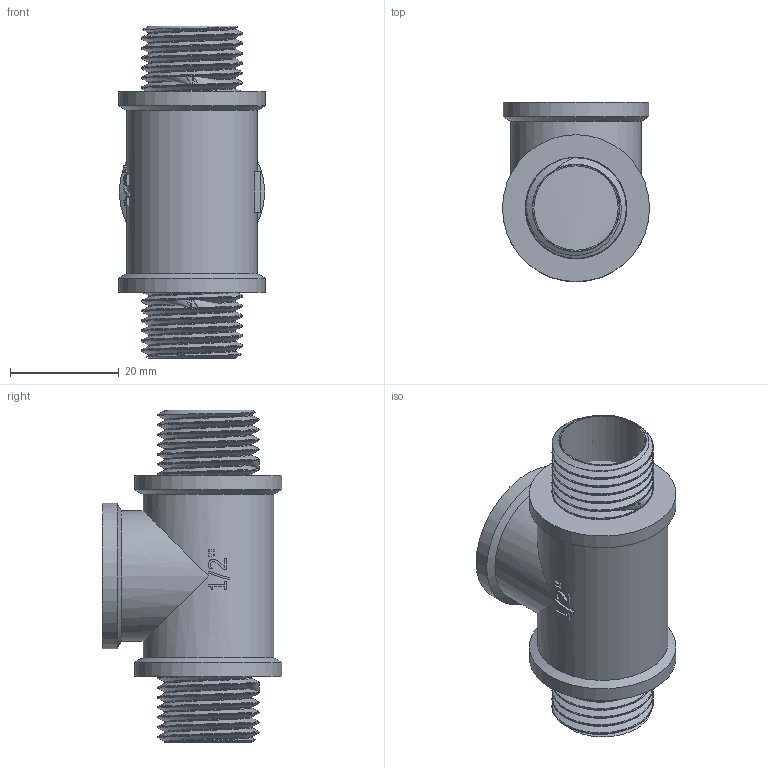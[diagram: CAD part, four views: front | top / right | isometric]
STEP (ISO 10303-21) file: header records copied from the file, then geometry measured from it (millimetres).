
FILE_DESCRIPTION(/* description */ (''),/* implementation_level */ '2;1');
FILE_NAME(/* name */ 'C:\Users\Doom\Desktop\Фадотех\Резьба\T51 18.03.2020\T51 18.03.2020.stp',/* time_stamp */ '2022-01-20T11:07:53+02:00',/* author */ ('Doom'),/* organization */ (''),/* preprocessor_version */ 'ST-DEVELOPER v18',/* originating_system */ 'Autodesk Inventor 2020',/* authorisation */ '');
FILE_SCHEMA (('AUTOMOTIVE_DESIGN { 1 0 10303 214 3 1 1 }'));
Length unit declared in the file: millimetre
Products named in the file (1): T51 18.03.2020
Bounding box: 27 x 33 x 61 mm (x, y, z)
Volume: 11429.4 mm3; surface area: 14958.7 mm2
Topology: 4 solids, 4 shells, 144 faces, 390 edges, 265 vertices
Faces by surface type: plane 63, cylinder 42, bspline 34, cone 5
Full cylindrical faces by diameter (mm): 15.5 x2, 15.94 x8, 18.63 x15, 21.5 x1, 24 x2, 26.7 x1, 27 x2
Entity records: 15373 total; most frequent: CARTESIAN_POINT 11905, ORIENTED_EDGE 780, DIRECTION 590, EDGE_CURVE 390, VERTEX_POINT 265, AXIS2_PLACEMENT_3D 214, EDGE_LOOP 165, LINE 162
